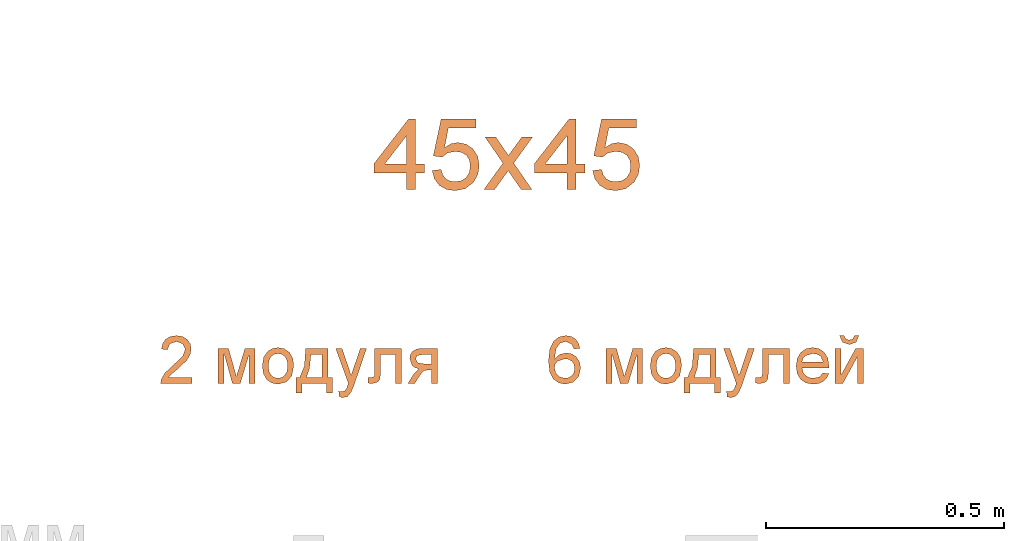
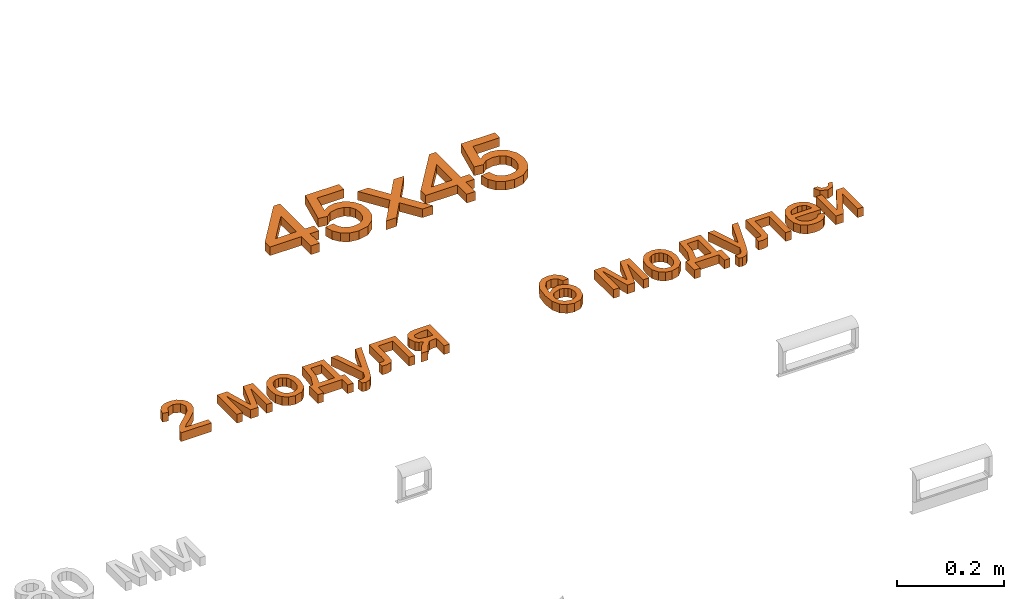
# One storey, part 37 of 71: 3 proxies.
"""IFC2X3 building model written with IfcOpenShell, lengths in millimetres."""

from ifc_helpers import new_model, entity, si_unit, converted_unit, derived_unit, direction, frame, origin, place, context, subcontext, project, spatial, polyline, outline, extrude, element, save


model = new_model("IFC2X3")

# Units and contexts
model_context = context("Model", 3, precision=0.01, world=origin(), true_north=direction((6.12303176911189e-17, 1.0)))
body_context = subcontext(model_context, "Body", "Model", "MODEL_VIEW")
ifc_project = project(units=[si_unit("LENGTHUNIT", "METRE", prefix="MILLI"), si_unit("AREAUNIT", "SQUARE_METRE"), si_unit("VOLUMEUNIT", "CUBIC_METRE"), converted_unit("PLANEANGLEUNIT", "DEGREE", entity("IfcRatioMeasure", 0.0174532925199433), si_unit("PLANEANGLEUNIT", "RADIAN"), dimensions=[0, 0, 0, 0, 0, 0, 0]), si_unit("MASSUNIT", "GRAM", prefix="KILO"), derived_unit("MASSDENSITYUNIT", [(si_unit("MASSUNIT", "GRAM", prefix="KILO"), 1), (si_unit("LENGTHUNIT", "METRE"), -3)]), si_unit("TIMEUNIT", "SECOND"), si_unit("FREQUENCYUNIT", "HERTZ"), si_unit("THERMODYNAMICTEMPERATUREUNIT", "DEGREE_CELSIUS"), derived_unit("THERMALTRANSMITTANCEUNIT", [(si_unit("MASSUNIT", "GRAM", prefix="KILO"), 1), (si_unit("THERMODYNAMICTEMPERATUREUNIT", "KELVIN"), -1), (si_unit("TIMEUNIT", "SECOND"), -3)]), derived_unit("VOLUMETRICFLOWRATEUNIT", [(si_unit("LENGTHUNIT", "METRE"), 3), (si_unit("TIMEUNIT", "SECOND"), -1)]), si_unit("ELECTRICCURRENTUNIT", "AMPERE"), si_unit("ELECTRICVOLTAGEUNIT", "VOLT"), si_unit("POWERUNIT", "WATT"), si_unit("FORCEUNIT", "NEWTON", prefix="KILO"), si_unit("ILLUMINANCEUNIT", "LUX"), si_unit("LUMINOUSFLUXUNIT", "LUMEN"), si_unit("LUMINOUSINTENSITYUNIT", "CANDELA"), derived_unit("USERDEFINED", [(si_unit("MASSUNIT", "GRAM", prefix="KILO"), -1), (si_unit("LENGTHUNIT", "METRE"), -2), (si_unit("TIMEUNIT", "SECOND"), 3), (si_unit("LUMINOUSFLUXUNIT", "LUMEN"), 1)]), derived_unit("LINEARVELOCITYUNIT", [(si_unit("LENGTHUNIT", "METRE"), 1), (si_unit("TIMEUNIT", "SECOND"), -1)]), si_unit("PRESSUREUNIT", "PASCAL"), derived_unit("USERDEFINED", [(si_unit("LENGTHUNIT", "METRE"), -2), (si_unit("MASSUNIT", "GRAM", prefix="KILO"), 1), (si_unit("TIMEUNIT", "SECOND"), -2)])], contexts=[model_context])

# Site, building, storey
site_placement = place(None, origin())
site = spatial("IfcSite", under=ifc_project, at=site_placement, Name="Default", CompositionType="ELEMENT")
building_placement = place(site_placement, origin())
building = spatial("IfcBuilding", under=site, at=building_placement, Name="Наименование здания", CompositionType="ELEMENT")
storey_placement = place(building_placement, origin())
storey = spatial("IfcBuildingStorey", under=building, at=storey_placement, Name="Этаж 01", CompositionType="ELEMENT", Elevation=0.0)

# Proxies
proxy_1_placement = place(storey_placement, origin())
element("IfcBuildingElementProxy", 1, at=proxy_1_placement, inside=storey, Name="Текст модели:150 мм Arial", ObjectType="Текст модели:150 мм Arial", context=body_context, shape_type="SweptSolid", body=[
    extrude(outline(polyline([(-1.71232346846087, -54.5803105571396), (17.1232346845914, -54.5803105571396), (17.1232346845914, -19.2636390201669), (35.9587928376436, -19.2636390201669), (35.9587928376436, -0.428080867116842), (17.1232346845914, -0.428080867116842), (17.1232346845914, 93.7497098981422), (2.99656606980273, 93.7497098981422), (-69.9912217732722, -0.428080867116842), (-69.9912217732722, -19.2636390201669), (-1.71232346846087, -19.2636390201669), (-1.71232346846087, -54.5803105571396)]), holes=[polyline([(-1.71232346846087, -0.428080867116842), (-46.8146560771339, -0.428080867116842), (-1.71232346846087, 57.7708507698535), (-1.71232346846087, -0.428080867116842)])]), frame((11879.1160941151, -11134.8197483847, 0.0)), (0.0, 0.0, 1.0), 20.0),
    extrude(outline(polyline([(3.98174183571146, -54.8187738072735), (21.8587404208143, -54.8187738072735), (37.498369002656, -48.5233846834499), (49.6984025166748, -36.5170107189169), (57.2566158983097, -19.3840561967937), (58.5930416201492, 3.2147066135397), (49.858844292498, 23.0858362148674), (36.5626810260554, 35.7858538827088), (19.11830603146, 43.4792165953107), (-0.371685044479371, 45.2689959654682), (-17.8137404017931, 39.728861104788), (-31.3539127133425, 28.2120678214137), (-39.1382546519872, 12.0718719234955), (-40.1304466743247, -2.2533018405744), (-35.6953877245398, -17.3554369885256), (-73.7285911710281, 1.09430263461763), (-58.8864139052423, 56.9121805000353), (-77.0894415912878, 61.7524319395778), (-95.8454159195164, -8.7843003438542), (-24.9931467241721, -44.6779867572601), (-17.877516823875, -27.0799905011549), (-23.3722963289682, -14.6747785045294), (-22.2870940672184, 2.14757173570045), (-16.7209239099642, 15.0994835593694), (-8.22815220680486, 23.0953986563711), (2.66085803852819, 26.3239256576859), (15.4157438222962, 24.9736731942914), (27.8824007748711, 19.4794342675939), (36.4135074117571, 10.6730537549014), (40.3599201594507, -0.844610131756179), (39.0724954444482, -14.4726991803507), (34.651099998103, -24.783612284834), (27.7397436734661, -31.8248777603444), (18.3632930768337, -35.5745578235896), (6.54661481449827, -36.010714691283), (3.98174183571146, -54.8187738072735)])), frame((11983.5106606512, -11131.4394622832, 0.0), z_axis=(0.0, 0.0, 1.0), x_axis=(0.256974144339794, -0.966418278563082, 0.0)), (0.0, 0.0, 1.0), 20.0),
    extrude(outline(polyline([(-51.7953323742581, -57.6397510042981), (-29.1338014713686, -57.6397510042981), (-0.512582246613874, -18.0924365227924), (3.71806069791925, -24.1992776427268), (26.7842617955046, -57.6397510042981), (49.4457926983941, -57.6397510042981), (11.1124888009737, -2.01599333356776), (50.9173206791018, 53.0191531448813), (28.2557897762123, 53.0191531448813), (7.43366884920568, 24.2507811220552), (0.0392407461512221, 14.0236616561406), (-8.49562154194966, 26.5316494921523), (-26.7793567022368, 53.0191531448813), (-49.4408876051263, 53.0191531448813), (-11.549042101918, -2.01599333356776), (-51.7953323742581, -57.6397510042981)])), frame((12091.655792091, -11131.7603079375, 0.0)), (0.0, 0.0, 1.0), 20.0),
    extrude(outline(polyline([(-1.71232346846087, -54.5803105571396), (17.1232346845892, -54.5803105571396), (17.1232346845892, -19.2636390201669), (35.9587928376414, -19.2636390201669), (35.9587928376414, -0.428080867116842), (17.1232346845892, -0.428080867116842), (17.1232346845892, 93.7497098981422), (2.99656606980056, 93.7497098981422), (-69.9912217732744, -0.428080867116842), (-69.9912217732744, -19.2636390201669), (-1.71232346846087, -19.2636390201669), (-1.71232346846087, -54.5803105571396)]), holes=[polyline([(-1.71232346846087, -0.428080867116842), (-46.814656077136, -0.428080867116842), (-1.71232346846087, 57.7708507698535), (-1.71232346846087, -0.428080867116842)])]), frame((12215.8016961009, -11134.8197483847, 0.0)), (0.0, 0.0, 1.0), 20.0),
    extrude(outline(polyline([(3.98174183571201, -54.8187738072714), (21.8587404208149, -54.8187738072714), (37.4983690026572, -48.5233846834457), (49.6984025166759, -36.5170107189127), (57.2566158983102, -19.3840561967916), (58.5930416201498, 3.2147066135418), (49.8588442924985, 23.0858362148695), (36.5626810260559, 35.785853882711), (19.1183060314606, 43.4792165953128), (-0.371685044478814, 45.2689959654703), (-17.8137404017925, 39.72886110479), (-31.3539127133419, 28.2120678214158), (-39.1382546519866, 12.0718719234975), (-40.1304466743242, -2.25330184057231), (-35.6953877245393, -17.3554369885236), (-73.7285911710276, 1.09430263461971), (-58.8864139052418, 56.9121805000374), (-77.0894415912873, 61.7524319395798), (-95.8454159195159, -8.78430034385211), (-24.9931467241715, -44.677986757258), (-17.8775168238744, -27.0799905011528), (-23.3722963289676, -14.6747785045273), (-22.2870940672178, 2.14757173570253), (-16.7209239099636, 15.0994835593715), (-8.2281522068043, 23.0953986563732), (2.66085803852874, 26.323925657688), (15.4157438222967, 24.9736731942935), (27.8824007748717, 19.479434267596), (36.4135074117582, 10.6730537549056), (40.3599201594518, -0.844610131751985), (39.0724954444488, -14.4726991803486), (34.6510999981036, -24.7836122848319), (27.7397436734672, -31.8248777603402), (18.3632930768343, -35.5745578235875), (6.54661481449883, -36.0107146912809), (3.98174183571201, -54.8187738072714)])), frame((12320.196262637, -11131.4394622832, 0.0), z_axis=(0.0, 0.0, 1.0), x_axis=(0.256974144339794, -0.966418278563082, 0.0)), (0.0, 0.0, 1.0), 20.0),
])
proxy_2_placement = place(storey_placement, origin())
element("IfcBuildingElementProxy", 2, at=proxy_2_placement, inside=storey, Name="Текст модели:100 мм Arial", ObjectType="Текст модели:100 мм Arial", context=body_context, shape_type="SweptSolid", body=[
    extrude(outline(polyline([(-32.385878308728, -45.1669477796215), (-32.385878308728, -57.7239865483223), (33.5385752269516, -57.7239865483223), (32.1896745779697, -49.0664969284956), (24.5622545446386, -35.7369059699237), (8.84143061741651, -21.1810416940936), (-12.8390816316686, -0.260818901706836), (-18.2592096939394, 13.963951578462), (-13.1456499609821, 25.4786580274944), (0.208466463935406, 30.1752848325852), (14.1266686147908, 25.5890226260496), (19.4119066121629, 12.9093565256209), (31.9689453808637, 14.4789863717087), (28.9247218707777, 26.6252235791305), (22.3426998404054, 35.4973110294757), (12.5662358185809, 40.923570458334), (-0.0613136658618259, 42.732323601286), (-12.7808336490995, 40.7212353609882), (-22.5389035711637, 34.6879706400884), (-28.746912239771, 25.674861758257), (-30.8162484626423, 14.7242410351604), (-28.5844310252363, 2.81712712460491), (-21.1654774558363, -9.49465698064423), (-3.17604789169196, -26.6992716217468), (11.2694517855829, -38.7780637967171), (16.9348345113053, -45.1669477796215), (-32.385878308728, -45.1669477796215)])), frame((11395.3096302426, -11538.3791772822, 0.0), z_axis=(0.0, 0.0, -1.0), x_axis=(-1.0, 0.0, 0.0)), (0.0, 0.0, -1.0), 20.0),
    extrude(outline(polyline([(-40.5839870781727, -38.4502715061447), (33.1886156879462, -38.4502715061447), (33.1886156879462, -25.893232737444), (-29.0570178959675, -25.893232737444), (33.1886156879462, -8.6273044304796), (33.1886156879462, 7.85380895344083), (-26.2120637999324, 25.9045521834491), (33.1886156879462, 25.9045521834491), (33.1886156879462, 38.4615909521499), (-40.5839870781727, 38.4615909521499), (-40.5839870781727, 17.7620973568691), (18.4733358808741, -0.190544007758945), (-40.5839870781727, -16.8433356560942), (-40.5839870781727, -38.4502715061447)])), frame((11521.0828246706, -11562.9145481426, 0.0), z_axis=(0.0, 0.0, 1.0), x_axis=(0.0, -1.0, 0.0)), (0.0, 0.0, 1.0), 20.0),
    extrude(outline(polyline([(-2.3402974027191, -31.6984909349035), (14.273181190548, -31.6984909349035), (27.1869525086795, -26.5873672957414), (35.990959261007, -17.1811275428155), (40.2751441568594, -4.29577920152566), (38.1491713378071, 13.1690451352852), (27.2514955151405, 26.648536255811), (5.67797919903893, 33.7446283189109), (-10.1280544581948, 33.6081083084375), (-22.8059382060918, 28.3900569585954), (-31.6389568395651, 18.9754531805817), (-35.9103951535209, 6.2492758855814), (-35.5406401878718, -5.97109031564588), (-30.8535887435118, -16.7835237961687), (-19.5870121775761, -26.5692340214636), (-2.3402974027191, -31.6984909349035)]), holes=[polyline([(-0.642949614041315, -19.2566729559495), (-11.6948097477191, -16.2599663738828), (-19.0989004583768, -10.8341828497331), (-22.9822632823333, -3.6735675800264), (-23.4719397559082, 4.52763423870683), (-20.7783225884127, 12.2046648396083), (-15.0781786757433, 18.0357050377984), (-6.56600936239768, 21.2863283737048), (4.56368400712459, 21.2221083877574), (15.8675929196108, 18.1905150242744), (23.3961896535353, 12.7474982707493), (27.3267847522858, 5.59272509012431), (27.8366887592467, -2.5741375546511), (25.1317228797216, -10.3331599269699), (19.4311586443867, -16.1672368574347), (10.8134498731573, -19.3753979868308), (-0.642949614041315, -19.2566729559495)])]), frame((11606.960725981, -11557.1890151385, 0.0), z_axis=(0.0, 0.0, 1.0), x_axis=(0.137105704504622, -0.990556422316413, 0.0)), (0.0, 0.0, 1.0), 20.0),
    extrude(outline(polyline([(-60.5357741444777, 21.8585403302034), (-64.1355131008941, -25.0925613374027), (-3.09908093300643, -29.7722219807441), (-3.81902872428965, -39.1624423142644), (29.0467424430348, -41.6822595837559), (30.0066728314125, -29.1619658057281), (9.6611954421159, -27.6020789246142), (13.620908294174, 24.0441329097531), (33.9663856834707, 22.4842460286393), (34.9263160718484, 35.0045398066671), (2.06054490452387, 37.5243570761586), (1.46058841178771, 29.6991734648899), (-23.1599571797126, 21.8585403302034), (-60.5357741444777, 21.8585403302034)]), holes=[polyline([(-48.8554194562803, 9.94335288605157), (-20.1051961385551, 10.6907678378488), (0.380666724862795, 15.6138429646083), (-2.13915054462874, -17.2519282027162), (-50.6552889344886, -13.5321979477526), (-48.8554194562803, 9.94335288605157)])]), frame((11683.4461283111, -11584.3601818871, 0.0), z_axis=(0.0, 0.0, -1.0), x_axis=(-0.0764456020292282, -0.997073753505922, 0.0)), (0.0, 0.0, -1.0), 20.0),
    extrude(outline(polyline([(-9.37518561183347, -42.4598564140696), (-1.53988444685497, -42.4598564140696), (7.48239978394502, -37.7362595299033), (12.8451650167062, -27.6028387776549), (16.0988896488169, -10.2155558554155), (26.1240678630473, 68.9356869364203), (13.2448947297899, 66.3022457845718), (7.58427059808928, 21.387273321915), (5.65333119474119, 6.22303112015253), (-2.45833389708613, 21.2864004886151), (-24.527605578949, 58.5787952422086), (-37.502891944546, 55.9257015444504), (3.36457727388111, -10.7416452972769), (3.01267387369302, -13.9176809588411), (1.50096319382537, -23.6641922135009), (-1.30543571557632, -28.1807080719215), (-6.8667223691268, -30.7321996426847), (-13.3351736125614, -30.9283412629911), (-9.37518561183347, -42.4598564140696)])), frame((11754.6036246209, -11584.6354645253, 0.0), z_axis=(0.0, 0.0, 1.0), x_axis=(0.979728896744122, -0.200327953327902, 0.0)), (0.0, 0.0, 1.0), 20.0),
    extrude(outline(polyline([(-49.3689973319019, 12.5447760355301), (-49.3689973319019, -43.9618984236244), (24.3300290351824, -43.9618984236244), (24.3300290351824, -31.4048596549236), (-36.8119585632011, -31.4048596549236), (-36.8119585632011, -0.0122627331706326), (-1.61791435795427, -0.0122627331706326), (14.6179443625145, 0.833865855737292), (21.4728122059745, 5.4814417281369), (24.403605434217, 16.4688506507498), (23.7659433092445, 26.6714446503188), (11.8465666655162, 26.6714446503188), (11.8465666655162, 21.0551128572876), (11.0740144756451, 15.3774673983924), (8.62146784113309, 13.108861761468), (-2.32915288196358, 12.5447760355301), (-49.3689973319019, 12.5447760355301)])), frame((11823.2299670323, -11571.6995583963, 0.0), z_axis=(0.0, 0.0, -1.0), x_axis=(0.0, -1.0, 0.0)), (0.0, 0.0, -1.0), 20.0),
    extrude(outline(polyline([(-36.1880068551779, -39.1855638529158), (-3.42198381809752, -39.1855638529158), (7.43666640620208, -37.7079045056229), (15.3890488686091, -33.2749264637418), (20.2634853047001, -26.4691095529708), (21.8882974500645, -17.8729335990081), (17.1303569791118, -3.64816311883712), (11.097092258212, 1.34890064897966), (2.51317903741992, 3.97925691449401), (13.2062823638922, 14.4271055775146), (25.8123720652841, 34.5870389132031), (11.2932959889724, 34.5870389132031), (1.28690572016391, 18.6454857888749), (-7.46868576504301, 7.92785699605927), (-16.7883629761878, 6.33370168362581), (-23.6309680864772, 6.33370168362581), (-23.6309680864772, 34.5870389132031), (-36.1880068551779, 34.5870389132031), (-36.1880068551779, -39.1855638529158)]), holes=[polyline([(-23.6309680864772, -26.6285250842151), (-23.6309680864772, -6.22333708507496), (-10.7796237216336, -6.22333708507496), (4.90441200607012, -8.81077378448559), (9.33125868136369, -16.9164404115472), (6.32688905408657, -23.7222573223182), (-7.07627830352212, -26.6285250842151), (-23.6309680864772, -26.6285250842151)])]), frame((11906.3460912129, -11561.5161249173, 0.0), z_axis=(0.0, 0.0, 1.0), x_axis=(-1.0, 0.0, 0.0)), (0.0, 0.0, 1.0), 20.0),
])
proxy_3_placement = place(storey_placement, origin())
element("IfcBuildingElementProxy", 3, at=proxy_3_placement, inside=storey, Name="Текст модели:100 мм Arial", ObjectType="Текст модели:100 мм Arial", context=body_context, shape_type="SweptSolid", body=[
    extrude(outline(polyline([(6.79275401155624, -32.5027761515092), (18.3659045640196, -32.5027761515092), (28.1525204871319, -28.801137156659), (35.6312934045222, -21.7178704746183), (40.280914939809, -11.5729874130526), (41.413078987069, 3.23667074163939), (36.1391243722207, 16.3729018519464), (21.8599739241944, 28.8803269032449), (-1.50836821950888, 38.2054593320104), (-23.6059131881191, 41.7609274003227), (-39.9814227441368, 38.5965283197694), (-51.1650797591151, 29.9216784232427), (-57.687067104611, 16.9457940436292), (-57.9805556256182, -0.0494879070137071), (-49.208188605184, -14.3141019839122), (-33.6167855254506, -22.9350568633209), (-20.6265742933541, -24.2502330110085), (-8.97800352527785, -20.6254922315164), (0.091902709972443, -13.0350962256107), (5.34612034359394, -2.45330669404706), (5.85483161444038, 11.6447254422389), (-0.843339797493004, 24.9910631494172), (19.7707676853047, 15.5765036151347), (28.4840991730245, 4.26766164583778), (28.3893512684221, -7.46374532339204), (19.9956250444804, -18.1936336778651), (8.63303585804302, -19.9825396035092), (6.79275401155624, -32.5027761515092)]), holes=[polyline([(-18.75867171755, 29.9549594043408), (-11.6328110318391, 26.3613362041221), (-6.94154076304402, 20.2038317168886), (-5.85783236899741, 4.13761066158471), (-9.48331864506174, -3.95286412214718), (-15.107739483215, -9.26901644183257), (-22.3091633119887, -11.5969098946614), (-30.6656585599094, -10.7226080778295), (-38.6094491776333, -7.06141592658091), (-43.863709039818, -1.22509865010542), (-46.1835287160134, 6.17768396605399), (-45.3239987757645, 14.5382721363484), (-39.6901171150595, 24.7221971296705), (-30.0168134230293, 30.0585493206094), (-18.75867171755, 29.9549594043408)])]), frame((12212.0631442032, -11537.5554255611, 0.0), z_axis=(0.0, 0.0, 1.0), x_axis=(-0.267015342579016, 0.963692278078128, 0.0)), (0.0, 0.0, 1.0), 20.0),
    extrude(outline(polyline([(-40.5839870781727, -38.4502715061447), (33.1886156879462, -38.4502715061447), (33.1886156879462, -25.893232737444), (-29.0570178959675, -25.893232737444), (33.1886156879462, -8.6273044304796), (33.1886156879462, 7.85380895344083), (-26.2120637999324, 25.9045521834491), (33.1886156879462, 25.9045521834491), (33.1886156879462, 38.4615909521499), (-40.5839870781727, 38.4615909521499), (-40.5839870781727, 17.7620973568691), (18.4733358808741, -0.190544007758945), (-40.5839870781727, -16.8433356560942), (-40.5839870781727, -38.4502715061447)])), frame((12334.9593651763, -11562.9145481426, 0.0), z_axis=(0.0, 0.0, 1.0), x_axis=(0.0, -1.0, 0.0)), (0.0, 0.0, 1.0), 20.0),
    extrude(outline(polyline([(-2.34029740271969, -31.6984909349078), (14.2731811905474, -31.6984909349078), (27.1869525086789, -26.5873672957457), (35.9909592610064, -17.1811275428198), (40.2751441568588, -4.29577920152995), (38.1491713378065, 13.1690451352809), (27.2514955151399, 26.6485362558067), (5.67797919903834, 33.7446283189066), (-10.1280544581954, 33.6081083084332), (-22.8059382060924, 28.3900569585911), (-31.6389568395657, 18.9754531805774), (-35.9103951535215, 6.24927588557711), (-35.5406401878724, -5.97109031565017), (-30.8535887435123, -16.783523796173), (-19.5870121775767, -26.5692340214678), (-2.34029740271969, -31.6984909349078)]), holes=[polyline([(-0.642949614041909, -19.2566729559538), (-11.6948097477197, -16.2599663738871), (-19.0989004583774, -10.8341828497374), (-22.9822632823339, -3.67356758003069), (-23.4719397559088, 4.52763423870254), (-20.7783225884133, 12.204664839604), (-15.0781786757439, 18.0357050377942), (-6.56600936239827, 21.2863283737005), (4.56368400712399, 21.2221083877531), (15.8675929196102, 18.1905150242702), (23.3961896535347, 12.747498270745), (27.3267847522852, 5.59272509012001), (27.8366887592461, -2.57413755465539), (25.131722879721, -10.3331599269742), (19.4311586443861, -16.167236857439), (10.8134498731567, -19.3753979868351), (-0.642949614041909, -19.2566729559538)])]), frame((12420.8372664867, -11557.1890151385, 0.0), z_axis=(0.0, 0.0, 1.0), x_axis=(0.137105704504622, -0.990556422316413, 0.0)), (0.0, 0.0, 1.0), 20.0),
    extrude(outline(polyline([(-60.5357741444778, 21.8585403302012), (-64.1355131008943, -25.0925613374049), (-3.09908093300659, -29.7722219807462), (-3.81902872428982, -39.1624423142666), (29.0467424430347, -41.6822595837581), (30.0066728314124, -29.1619658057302), (9.66119544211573, -27.6020789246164), (13.6209082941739, 24.044132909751), (33.9663856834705, 22.4842460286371), (34.9263160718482, 35.004539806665), (2.06054490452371, 37.5243570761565), (1.46058841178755, 29.6991734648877), (-23.1599571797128, 21.8585403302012), (-60.5357741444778, 21.8585403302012)]), holes=[polyline([(-48.8554194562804, 9.94335288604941), (-20.1051961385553, 10.6907678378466), (0.38066672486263, 15.6138429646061), (-2.13915054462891, -17.2519282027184), (-50.6552889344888, -13.5321979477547), (-48.8554194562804, 9.94335288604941)])]), frame((12497.3226688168, -11584.3601818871, 0.0), z_axis=(0.0, 0.0, -1.0), x_axis=(-0.0764456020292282, -0.997073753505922, 0.0)), (0.0, 0.0, -1.0), 20.0),
    extrude(outline(polyline([(-9.37518561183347, -42.4598564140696), (-1.53988444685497, -42.4598564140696), (7.48239978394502, -37.7362595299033), (12.8451650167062, -27.6028387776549), (16.0988896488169, -10.2155558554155), (26.1240678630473, 68.9356869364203), (13.2448947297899, 66.3022457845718), (7.58427059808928, 21.387273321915), (5.65333119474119, 6.22303112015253), (-2.45833389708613, 21.2864004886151), (-24.527605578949, 58.5787952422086), (-37.502891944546, 55.9257015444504), (3.36457727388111, -10.7416452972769), (3.01267387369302, -13.9176809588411), (1.50096319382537, -23.6641922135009), (-1.30543571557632, -28.1807080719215), (-6.8667223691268, -30.7321996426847), (-13.3351736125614, -30.9283412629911), (-9.37518561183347, -42.4598564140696)])), frame((12568.4801651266, -11584.6354645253, 0.0), z_axis=(0.0, 0.0, 1.0), x_axis=(0.979728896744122, -0.200327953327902, 0.0)), (0.0, 0.0, 1.0), 20.0),
    extrude(outline(polyline([(-49.3689973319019, 12.544776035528), (-49.3689973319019, -43.9618984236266), (24.3300290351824, -43.9618984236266), (24.3300290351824, -31.4048596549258), (-36.8119585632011, -31.4048596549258), (-36.8119585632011, -0.0122627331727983), (-1.61791435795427, -0.0122627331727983), (14.6179443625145, 0.833865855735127), (21.4728122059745, 5.48144172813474), (24.403605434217, 16.4688506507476), (23.7659433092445, 26.6714446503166), (11.8465666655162, 26.6714446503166), (11.8465666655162, 21.0551128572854), (11.0740144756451, 15.3774673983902), (8.62146784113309, 13.1088617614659), (-2.32915288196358, 12.544776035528), (-49.3689973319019, 12.544776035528)])), frame((12637.106507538, -11571.6995583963, 0.0), z_axis=(0.0, 0.0, -1.0), x_axis=(0.0, -1.0, 0.0)), (0.0, 0.0, -1.0), 20.0),
    extrude(outline(polyline([(-8.10128238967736, -20.3751729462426), (-15.5352214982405, -30.3140016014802), (-5.78400372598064, -33.5775071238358), (4.1218508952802, -33.3132173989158), (13.8776168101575, -29.4480778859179), (23.1785684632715, -21.9090340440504), (31.6380426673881, -9.59237957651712), (34.1620486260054, 3.74135328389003), (30.6040508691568, 17.2442201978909), (20.8175139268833, 30.068276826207), (7.27698270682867, 39.7846728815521), (-6.66179525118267, 43.1117813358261), (-19.964259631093, 40.4221234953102), (-31.5958501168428, 32.0882206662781), (-39.2435519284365, 20.5090048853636), (-41.3106827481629, 7.34319797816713), (-37.437370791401, -6.34962495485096), (-27.2637442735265, -19.5098888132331), (-24.7804584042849, -21.8106804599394), (14.4643272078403, 18.7422646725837), (19.7071986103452, 10.6437992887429), (21.1614672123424, 2.21005051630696), (19.1472085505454, -5.98136753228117), (13.9844981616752, -13.3528407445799), (3.53684605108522, -20.3751729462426), (-8.10128238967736, -20.3751729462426)]), holes=[polyline([(5.44081225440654, 27.4746984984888), (-25.1227061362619, -4.10760383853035), (-29.8038819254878, 7.41909510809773), (-27.8851342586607, 15.7498710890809), (-22.5382240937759, 23.3910349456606), (-8.40970331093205, 31.2368652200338), (-1.08072680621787, 30.9147288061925), (5.44081225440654, 27.4746984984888)])]), frame((12731.2791479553, -11565.7806130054, 0.0), z_axis=(0.0, 0.0, -1.0), x_axis=(-0.695421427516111, -0.718602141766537, 0.0)), (0.0, 0.0, -1.0), 20.0),
    extrude(outline(polyline([(-11.142983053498, -6.65049913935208), (-15.3141401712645, -15.0941956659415), (-0.0922190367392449, -15.8161107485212), (10.2631635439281, -5.84547547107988), (12.416217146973, 9.42172447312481), (2.76087400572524, 21.4951559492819), (-1.41028311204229, 13.0514594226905), (3.36929976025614, 6.75127419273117), (2.31913688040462, -0.662833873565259), (-3.1690659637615, -6.65049913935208), (-11.142983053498, -6.65049913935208)])), frame((12806.7283116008, -11502.6917938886, 0.0), z_axis=(0.0, 0.0, -1.0), x_axis=(-0.442902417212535, -0.896569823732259, 0.0)), (0.0, 0.0, -1.0), 20.0),
    extrude(outline(polyline([(-36.9206370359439, -29.8425874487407), (36.851965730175, -29.8425874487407), (36.851965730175, -13.4105249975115), (-19.0660975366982, 17.2463079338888), (36.851965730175, 17.2463079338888), (36.851965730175, 29.8033467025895), (-36.9206370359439, 29.8033467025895), (-36.9206370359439, 13.5674879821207), (19.340782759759, -17.28554868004), (-36.9206370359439, -17.28554868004), (-36.9206370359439, -29.8425874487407)])), frame((12806.6584140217, -11559.2511981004, 0.0), z_axis=(0.0, 0.0, 1.0), x_axis=(0.0, -1.0, 0.0)), (0.0, 0.0, 1.0), 20.0),
])

save(model, "model.ifc")
